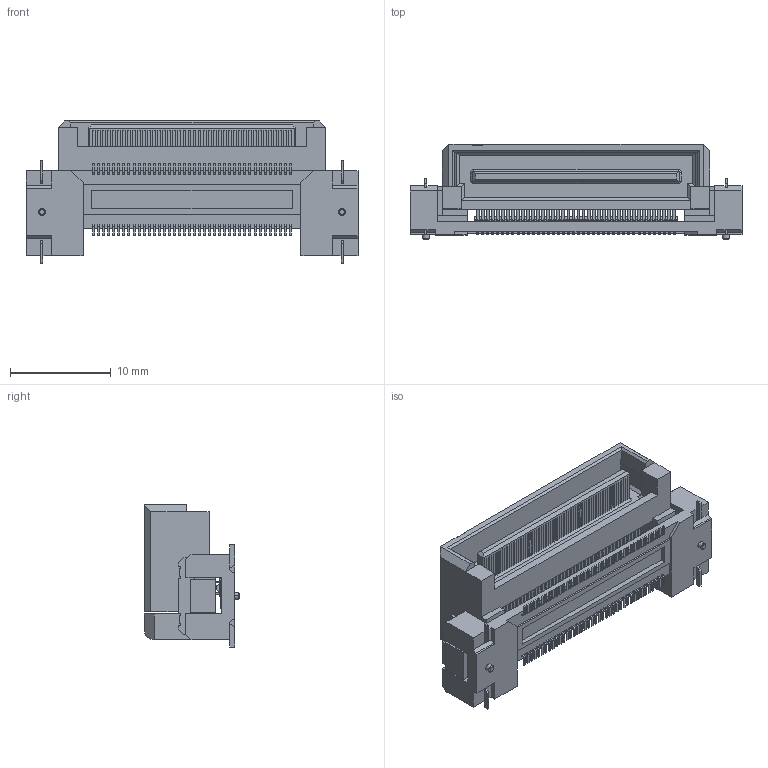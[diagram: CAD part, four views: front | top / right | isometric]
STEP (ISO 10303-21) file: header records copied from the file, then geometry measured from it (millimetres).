
FILE_DESCRIPTION(('Creo Elements/Direct Modeling STEP Export'),'2;1');
FILE_NAME('DT01-080L.stp','2018-11-12T16:50:33',(''),(''),'Creo Elements/Direct Modeling STEP processor for AP214 (Solid Model)','Creo Elements/Direct Modeling 19.0F 14-Feb-2017 (C) Parametric Technology GmbH','');
FILE_SCHEMA(('AUTOMOTIVE_DESIGN { 1 0 10303 214 1 1 1 1 }'));
Products named in the file (2): DT01-080L_model
Assembly tree (1 placements, depth 2):
  DT01-080L_model
    DT01-080L_model
Bounding box: 32.92 x 9.5 x 14.09 mm (x, y, z)
Volume: 1274.3 mm3; surface area: 2848.1 mm2
Topology: 1 solids, 1 shells, 3813 faces, 10774 edges, 7008 vertices
Faces by surface type: plane 3075, cylinder 734, cone 4
Entity records: 117888 total; most frequent: ORIENTED_EDGE 21548, CARTESIAN_POINT 20683, DIRECTION 18629, EDGE_CURVE 10774, VECTOR 8721, LINE 8721, VERTEX_POINT 7008, AXIS2_PLACEMENT_3D 4954
